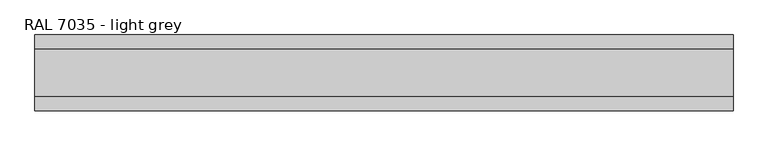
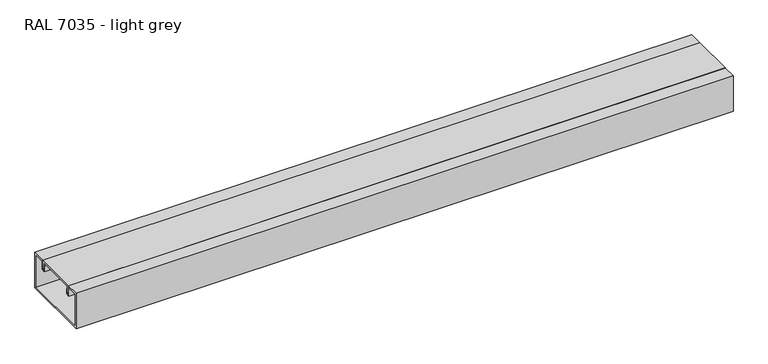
"""IFC4 building model written with IfcOpenShell, lengths in millimetres: proxy geometry, Electrical_Installations_Hager_BRP-Lid-End-Cap-One-Compartment : RAL 7035 - light grey."""

from ifc_helpers import new_model, si_unit, frame, origin, place, context, project, spatial, polyline, outline, extrude, source, transform, mapped, element, save


def ral_7035_light_grey_e02d2b4f(model_context):
    return source(origin(), model_context, "Body", "SweptSolid", [
        extrude(outline(polyline([(40.0, 18.6492509), (37.5361498, 18.6492509), (37.5361498, 30.0), (-37.5361498, 30.0), (-37.5361498, 18.6492509), (-40.0, 18.6492509), (-40.0, 33.0), (40.0, 33.0), (40.0, 18.6492509)])), frame((0.0, 0.0, 0.0), z_axis=(1.0, 0.0, 0.0), x_axis=(0.0, 1.0, 0.0)), (0.0, 0.0, 1.0), 1196.5544818),
        extrude(outline(polyline([(65.0, 33.0), (65.0, -35.0582587), (-65.0, -35.0582587), (-65.0, 33.0), (-40.5, 33.0), (-40.5, 16.0), (-36.578125, 16.0), (-36.578125, 24.0415809), (-35.3, 24.0415809), (-35.3, 14.0), (-42.5, 14.0), (-42.5, 30.0), (-62.0, 30.0), (-62.0, -32.0582587), (62.0, -32.0582587), (62.0, 30.0), (42.5, 30.0), (42.5, 14.0), (35.221875, 14.0), (35.221875, 24.0415809), (36.5, 24.0415809), (36.5, 16.0), (40.5, 16.0), (40.5, 33.0), (65.0, 33.0)])), frame((0.0, 0.0, 0.0), z_axis=(1.0, 0.0, 0.0), x_axis=(0.0, 1.0, 0.0)), (0.0, 0.0, 1.0), 1196.5544818),
    ])


if __name__ == "__main__":
    model = new_model("IFC4")
    model_context = context("Model", 3, world=origin())
    ifc_project = project(units=[si_unit("LENGTHUNIT", "METRE", prefix="MILLI")], contexts=[model_context])
    site = spatial("IfcSite", under=ifc_project)
    building = spatial("IfcBuilding", under=site)
    placement = place(None, origin())
    ral_7035_light_grey_shape = ral_7035_light_grey_e02d2b4f(model_context)
    element("IfcBuildingElementProxy", 1, Name="Electrical_Installations_Hager_BRP-Lid-End-Cap-One-Compartment : RAL 7035 - light grey", ObjectType="Electrical_Installations_Hager_BRP-Lid-End-Cap-One-Compartment : RAL 7035 - light grey", at=placement, inside=building, context=model_context, shape_type="MappedRepresentation", body=[
        mapped(ral_7035_light_grey_shape, transform((0.0, 0.0, 0.0), x_axis=(1.0, 0.0, 0.0), y_axis=(0.0, 1.0, 0.0), z_axis=(0.0, 0.0, 1.0))),
    ])
    save(model, "model.ifc")
